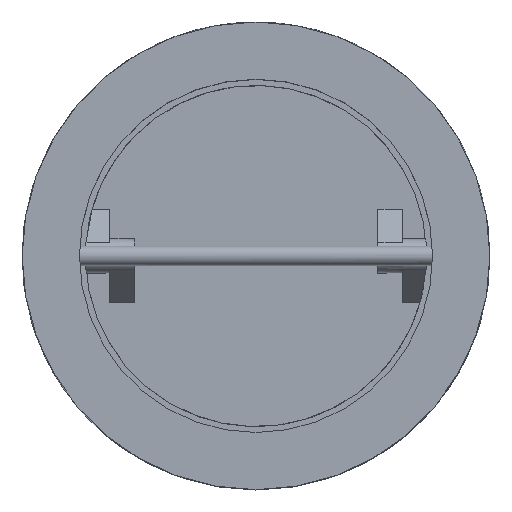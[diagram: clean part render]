
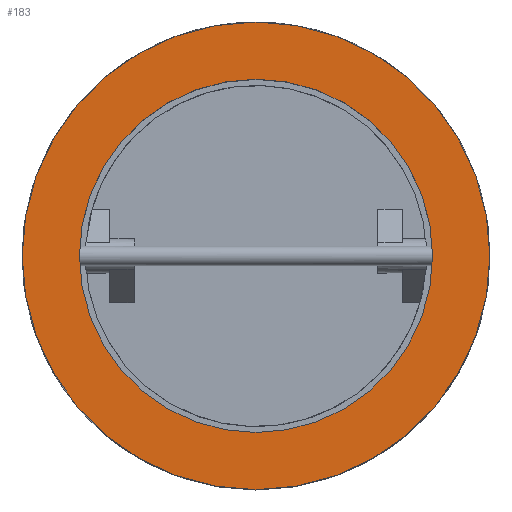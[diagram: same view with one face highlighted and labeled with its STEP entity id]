
A CAD part, top view. The second image highlights one B-rep face of the part: STEP entity #183.
In plain terms, the highlighted planar face has unit normal (0, 0, 1).
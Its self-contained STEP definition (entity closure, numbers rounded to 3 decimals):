
#183=ADVANCED_FACE('',(#822,#824),#826,.T.);
#822=FACE_BOUND('',#823,.T.);
#823=EDGE_LOOP('',(#1339));
#824=FACE_BOUND('',#825,.T.);
#825=EDGE_LOOP('',(#1340));
#826=PLANE('',#827);
#827=AXIS2_PLACEMENT_3D('',#828,#829,#830);
#828=CARTESIAN_POINT('',(0.,0.,70.));
#829=DIRECTION('',(0.,0.,1.));
#830=DIRECTION('',(0.,-1.,0.));
#1339=ORIENTED_EDGE('',*,*,#1681,.T.);
#1340=ORIENTED_EDGE('',*,*,#1691,.F.);
#1681=EDGE_CURVE('',#1899,#1899,#1900,.T.);
#1691=EDGE_CURVE('',#1919,#1919,#1920,.T.);
#1899=VERTEX_POINT('',#2306);
#1900=CIRCLE('',#2307,96.);
#1919=VERTEX_POINT('',#2352);
#1920=CIRCLE('',#2353,72.5);
#2306=CARTESIAN_POINT('',(0.,-96.,70.));
#2307=AXIS2_PLACEMENT_3D('',#2308,#2309,#2310);
#2308=CARTESIAN_POINT('',(0.,0.,70.));
#2309=DIRECTION('',(0.,0.,1.));
#2310=DIRECTION('',(0.,-1.,0.));
#2352=CARTESIAN_POINT('',(0.,-72.5,70.));
#2353=AXIS2_PLACEMENT_3D('',#2354,#2355,#2356);
#2354=CARTESIAN_POINT('',(0.,0.,70.));
#2355=DIRECTION('',(0.,0.,1.));
#2356=DIRECTION('',(0.,-1.,0.));
